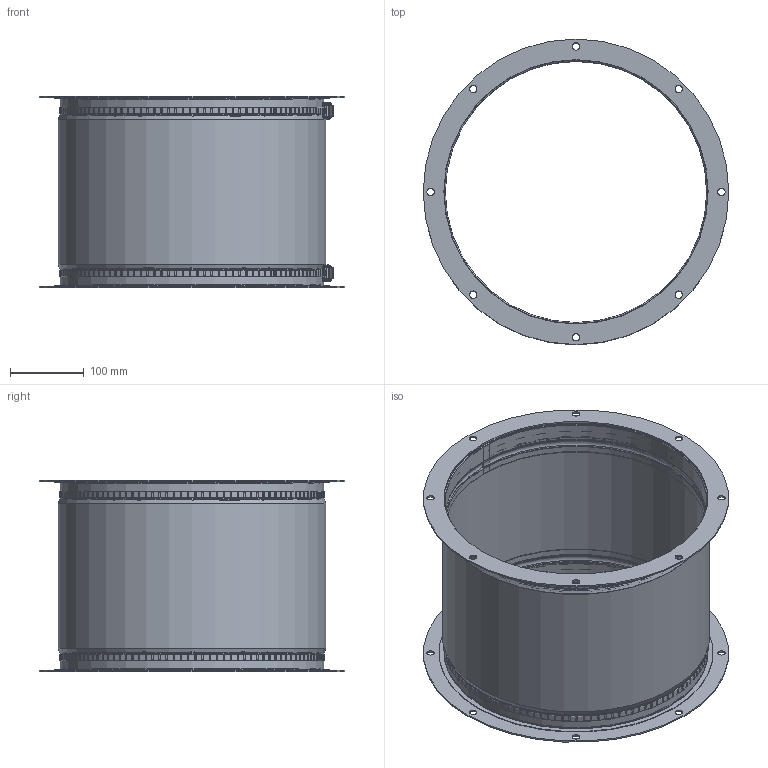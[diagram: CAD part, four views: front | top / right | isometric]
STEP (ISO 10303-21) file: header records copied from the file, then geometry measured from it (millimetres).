
FILE_DESCRIPTION(/* description */ ('Antivibration connector P-DRG ZPD-560 SE'),/* implementation_level */ '2;1');
FILE_NAME(/* name */ 'Y:\VaultRobocze\Designs\2\0\02\900 4580\2 002 900 4580.stp',/* time_stamp */ '2018-03-30T10:39:02+02:00',/* author */ ('TomaszCie'),/* organization */ (''),/* preprocessor_version */ 'ST-DEVELOPER v16.13',/* originating_system */ 'Autodesk Inventor 2018',/* authorisation */ '');
FILE_SCHEMA (('AUTOMOTIVE_DESIGN { 1 0 10303 214 3 1 1 }'));
Length unit declared in the file: millimetre
Products named in the file (10): 2 002 900 4580; Tape SBF; Compensator ZPD-560 400C; 2 002 901 4580; 2 002 901 3681; 2 002 901 3682 1; Duct clisp SBF; k0043_1430701_03; k0043_1430701_02; k0043_1430701_01
Assembly tree (12 placements, depth 3):
  2 002 900 4580
    Tape SBF  x2
    Compensator ZPD-560 400C
    2 002 901 4580  x2
      2 002 901 3681
      2 002 901 3682 1
    Duct clisp SBF  x2
      k0043_1430701_03
      k0043_1430701_02
      k0043_1430701_01
Bounding box: 415 x 415 x 260 mm (x, y, z)
Volume: 418020.3 mm3; surface area: 1043406.5 mm2
Topology: 13 solids, 13 shells, 2772 faces, 7424 edges, 4922 vertices
Faces by surface type: plane 1594, cylinder 1130, bspline 28, torus 16, cone 4
Full cylindrical faces by diameter (mm): 10 x16, 358 x2, 358.5 x2, 359 x2, 363 x1, 364 x1, 415 x2
Entity records: 45863 total; most frequent: CARTESIAN_POINT 9914, DIRECTION 7615, ORIENTED_EDGE 7386, EDGE_CURVE 3693, AXIS2_PLACEMENT_3D 2772, VERTEX_POINT 2459, LINE 2071, VECTOR 2071
